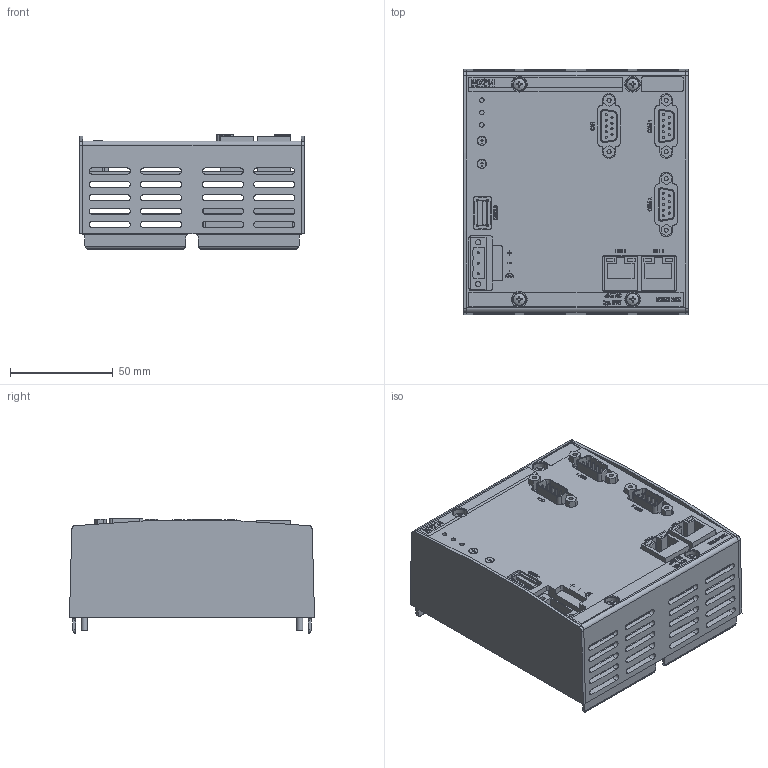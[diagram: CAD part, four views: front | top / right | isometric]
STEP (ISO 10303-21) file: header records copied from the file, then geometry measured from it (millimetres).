
FILE_DESCRIPTION(/* description */ ('MX214'),/* implementation_level */ '2;1');
FILE_NAME(/* name */ 'P:\Others\ePLAN_Library\Product\Daten\M200\MX214\MX214.stp',/* time_stamp */ '2025-05-26T15:41:05+02:00',/* author */ ('schwendm'),/* organization */ ('2025 Bachmann electronic GmbH'),/* preprocessor_version */ 'ST-DEVELOPER v18.1',/* originating_system */ 'Autodesk Inventor 2022',/* authorisation */ '-');
FILE_SCHEMA (('AUTOMOTIVE_DESIGN { 1 0 10303 214 3 1 1 }'));
Products named in the file (1): 00035497
Bounding box: 109 x 119 x 55.65 mm (x, y, z)
Volume: 169123.5 mm3; surface area: 159426.5 mm2
Topology: 47 solids, 47 shells, 1805 faces, 4838 edges, 3222 vertices
Faces by surface type: plane 1190, bspline 306, cylinder 272, cone 33, sphere 4
Full cylindrical faces by diameter (mm): 1 x30, 2 x6, 2.2 x3, 2.32 x4, 2.459 x4, 2.5 x2, 3 x4, 3.5 x4, 3.82 x1, 4.1 x3, 4.5 x2, 6.6 x4, 7.6 x3
Entity records: 59161 total; most frequent: CARTESIAN_POINT 13391, ORIENTED_EDGE 9668, DIRECTION 7786, EDGE_CURVE 4834, LINE 3482, VECTOR 3482, VERTEX_POINT 3222, AXIS2_PLACEMENT_3D 2152
